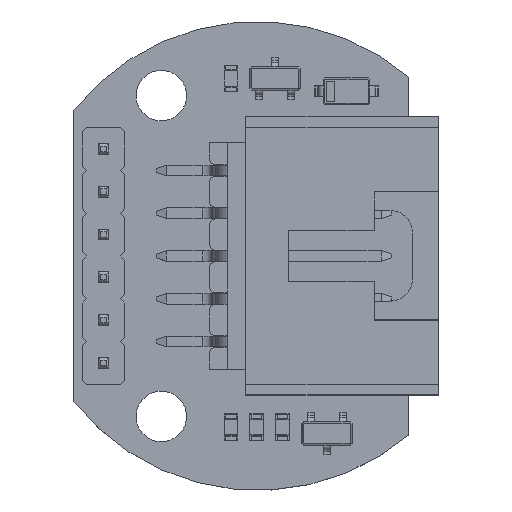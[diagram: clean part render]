
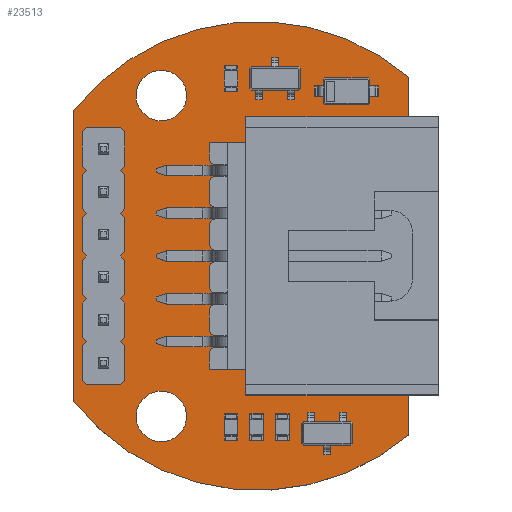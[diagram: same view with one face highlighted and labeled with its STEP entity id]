
A CAD part, top view. The second image highlights one B-rep face of the part: STEP entity #23513.
In plain terms, the highlighted planar face has unit normal (0, 0, 1).
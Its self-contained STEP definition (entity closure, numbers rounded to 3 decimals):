
#23288 = VERTEX_POINT('',#23289);
#23289 = CARTESIAN_POINT('',(219.639,-114.939,1.6));
#23295 = EDGE_CURVE('',#23288,#23296,#23298,.T.);
#23296 = VERTEX_POINT('',#23297);
#23297 = CARTESIAN_POINT('',(239.543,-112.942,1.6));
#23298 = CIRCLE('',#23299,13.91);
#23299 = AXIS2_PLACEMENT_3D('',#23300,#23301,#23302);
#23300 = CARTESIAN_POINT('',(230.556,-123.558,1.6));
#23301 = DIRECTION('',(0.,0.,-1.));
#23302 = DIRECTION('',(-0.785,0.62,0.));
#23330 = VERTEX_POINT('',#23331);
#23331 = CARTESIAN_POINT('',(219.642,-132.213,1.6));
#23337 = EDGE_CURVE('',#23330,#23288,#23338,.T.);
#23338 = LINE('',#23339,#23340);
#23339 = CARTESIAN_POINT('',(219.642,-132.213,1.6));
#23340 = VECTOR('',#23341,1.);
#23341 = DIRECTION('',(0.,1.,0.));
#23359 = EDGE_CURVE('',#23296,#23360,#23362,.T.);
#23360 = VERTEX_POINT('',#23361);
#23361 = CARTESIAN_POINT('',(239.543,-134.2,1.6));
#23362 = LINE('',#23363,#23364);
#23363 = CARTESIAN_POINT('',(239.543,-112.942,1.6));
#23364 = VECTOR('',#23365,1.);
#23365 = DIRECTION('',(0.,-1.,0.));
#23513 = ADVANCED_FACE('',(#23514,#23526,#23537,#23548,#23559,#23570,
    #23581,#23592,#23603,#23614,#23625),#23636,.T.);
#23514 = FACE_BOUND('',#23515,.T.);
#23515 = EDGE_LOOP('',(#23516,#23517,#23518,#23525));
#23516 = ORIENTED_EDGE('',*,*,#23295,.F.);
#23517 = ORIENTED_EDGE('',*,*,#23337,.F.);
#23518 = ORIENTED_EDGE('',*,*,#23519,.F.);
#23519 = EDGE_CURVE('',#23360,#23330,#23520,.T.);
#23520 = CIRCLE('',#23521,13.929);
#23521 = AXIS2_PLACEMENT_3D('',#23522,#23523,#23524);
#23522 = CARTESIAN_POINT('',(230.556,-123.558,1.6));
#23523 = DIRECTION('',(-0.,0.,-1.));
#23524 = DIRECTION('',(0.645,-0.764,-0.));
#23525 = ORIENTED_EDGE('',*,*,#23359,.F.);
#23526 = FACE_BOUND('',#23527,.T.);
#23527 = EDGE_LOOP('',(#23528));
#23528 = ORIENTED_EDGE('',*,*,#23529,.T.);
#23529 = EDGE_CURVE('',#23530,#23530,#23532,.T.);
#23530 = VERTEX_POINT('',#23531);
#23531 = CARTESIAN_POINT('',(224.841,-134.596,1.6));
#23532 = CIRCLE('',#23533,1.5);
#23533 = AXIS2_PLACEMENT_3D('',#23534,#23535,#23536);
#23534 = CARTESIAN_POINT('',(224.841,-133.096,1.6));
#23535 = DIRECTION('',(-0.,0.,-1.));
#23536 = DIRECTION('',(-0.,-1.,0.));
#23537 = FACE_BOUND('',#23538,.T.);
#23538 = EDGE_LOOP('',(#23539));
#23539 = ORIENTED_EDGE('',*,*,#23540,.T.);
#23540 = EDGE_CURVE('',#23541,#23541,#23543,.T.);
#23541 = VERTEX_POINT('',#23542);
#23542 = CARTESIAN_POINT('',(221.412,-130.421,1.6));
#23543 = CIRCLE('',#23544,0.5);
#23544 = AXIS2_PLACEMENT_3D('',#23545,#23546,#23547);
#23545 = CARTESIAN_POINT('',(221.412,-129.921,1.6));
#23546 = DIRECTION('',(-0.,0.,-1.));
#23547 = DIRECTION('',(-0.,-1.,0.));
#23548 = FACE_BOUND('',#23549,.T.);
#23549 = EDGE_LOOP('',(#23550));
#23550 = ORIENTED_EDGE('',*,*,#23551,.T.);
#23551 = EDGE_CURVE('',#23552,#23552,#23554,.T.);
#23552 = VERTEX_POINT('',#23553);
#23553 = CARTESIAN_POINT('',(221.412,-127.881,1.6));
#23554 = CIRCLE('',#23555,0.5);
#23555 = AXIS2_PLACEMENT_3D('',#23556,#23557,#23558);
#23556 = CARTESIAN_POINT('',(221.412,-127.381,1.6));
#23557 = DIRECTION('',(-0.,0.,-1.));
#23558 = DIRECTION('',(-0.,-1.,0.));
#23559 = FACE_BOUND('',#23560,.T.);
#23560 = EDGE_LOOP('',(#23561));
#23561 = ORIENTED_EDGE('',*,*,#23562,.T.);
#23562 = EDGE_CURVE('',#23563,#23563,#23565,.T.);
#23563 = VERTEX_POINT('',#23564);
#23564 = CARTESIAN_POINT('',(221.412,-125.341,1.6));
#23565 = CIRCLE('',#23566,0.5);
#23566 = AXIS2_PLACEMENT_3D('',#23567,#23568,#23569);
#23567 = CARTESIAN_POINT('',(221.412,-124.841,1.6));
#23568 = DIRECTION('',(-0.,0.,-1.));
#23569 = DIRECTION('',(-0.,-1.,0.));
#23570 = FACE_BOUND('',#23571,.T.);
#23571 = EDGE_LOOP('',(#23572));
#23572 = ORIENTED_EDGE('',*,*,#23573,.T.);
#23573 = EDGE_CURVE('',#23574,#23574,#23576,.T.);
#23574 = VERTEX_POINT('',#23575);
#23575 = CARTESIAN_POINT('',(237.178,-131.751,1.6));
#23576 = CIRCLE('',#23577,1.7);
#23577 = AXIS2_PLACEMENT_3D('',#23578,#23579,#23580);
#23578 = CARTESIAN_POINT('',(237.178,-130.051,1.6));
#23579 = DIRECTION('',(-0.,0.,-1.));
#23580 = DIRECTION('',(-0.,-1.,0.));
#23581 = FACE_BOUND('',#23582,.T.);
#23582 = EDGE_LOOP('',(#23583));
#23583 = ORIENTED_EDGE('',*,*,#23584,.T.);
#23584 = EDGE_CURVE('',#23585,#23585,#23587,.T.);
#23585 = VERTEX_POINT('',#23586);
#23586 = CARTESIAN_POINT('',(221.412,-122.801,1.6));
#23587 = CIRCLE('',#23588,0.5);
#23588 = AXIS2_PLACEMENT_3D('',#23589,#23590,#23591);
#23589 = CARTESIAN_POINT('',(221.412,-122.301,1.6));
#23590 = DIRECTION('',(-0.,0.,-1.));
#23591 = DIRECTION('',(-0.,-1.,0.));
#23592 = FACE_BOUND('',#23593,.T.);
#23593 = EDGE_LOOP('',(#23594));
#23594 = ORIENTED_EDGE('',*,*,#23595,.T.);
#23595 = EDGE_CURVE('',#23596,#23596,#23598,.T.);
#23596 = VERTEX_POINT('',#23597);
#23597 = CARTESIAN_POINT('',(221.412,-120.261,1.6));
#23598 = CIRCLE('',#23599,0.5);
#23599 = AXIS2_PLACEMENT_3D('',#23600,#23601,#23602);
#23600 = CARTESIAN_POINT('',(221.412,-119.761,1.6));
#23601 = DIRECTION('',(-0.,0.,-1.));
#23602 = DIRECTION('',(-0.,-1.,0.));
#23603 = FACE_BOUND('',#23604,.T.);
#23604 = EDGE_LOOP('',(#23605));
#23605 = ORIENTED_EDGE('',*,*,#23606,.T.);
#23606 = EDGE_CURVE('',#23607,#23607,#23609,.T.);
#23607 = VERTEX_POINT('',#23608);
#23608 = CARTESIAN_POINT('',(221.412,-117.721,1.6));
#23609 = CIRCLE('',#23610,0.5);
#23610 = AXIS2_PLACEMENT_3D('',#23611,#23612,#23613);
#23611 = CARTESIAN_POINT('',(221.412,-117.221,1.6));
#23612 = DIRECTION('',(-0.,0.,-1.));
#23613 = DIRECTION('',(-0.,-1.,0.));
#23614 = FACE_BOUND('',#23615,.T.);
#23615 = EDGE_LOOP('',(#23616));
#23616 = ORIENTED_EDGE('',*,*,#23617,.T.);
#23617 = EDGE_CURVE('',#23618,#23618,#23620,.T.);
#23618 = VERTEX_POINT('',#23619);
#23619 = CARTESIAN_POINT('',(224.841,-115.546,1.6));
#23620 = CIRCLE('',#23621,1.5);
#23621 = AXIS2_PLACEMENT_3D('',#23622,#23623,#23624);
#23622 = CARTESIAN_POINT('',(224.841,-114.046,1.6));
#23623 = DIRECTION('',(-0.,0.,-1.));
#23624 = DIRECTION('',(-0.,-1.,0.));
#23625 = FACE_BOUND('',#23626,.T.);
#23626 = EDGE_LOOP('',(#23627));
#23627 = ORIENTED_EDGE('',*,*,#23628,.T.);
#23628 = EDGE_CURVE('',#23629,#23629,#23631,.T.);
#23629 = VERTEX_POINT('',#23630);
#23630 = CARTESIAN_POINT('',(237.178,-118.791,1.6));
#23631 = CIRCLE('',#23632,1.7);
#23632 = AXIS2_PLACEMENT_3D('',#23633,#23634,#23635);
#23633 = CARTESIAN_POINT('',(237.178,-117.091,1.6));
#23634 = DIRECTION('',(-0.,0.,-1.));
#23635 = DIRECTION('',(-0.,-1.,0.));
#23636 = PLANE('',#23637);
#23637 = AXIS2_PLACEMENT_3D('',#23638,#23639,#23640);
#23638 = CARTESIAN_POINT('',(0.,0.,1.6));
#23639 = DIRECTION('',(0.,0.,1.));
#23640 = DIRECTION('',(1.,0.,-0.));
